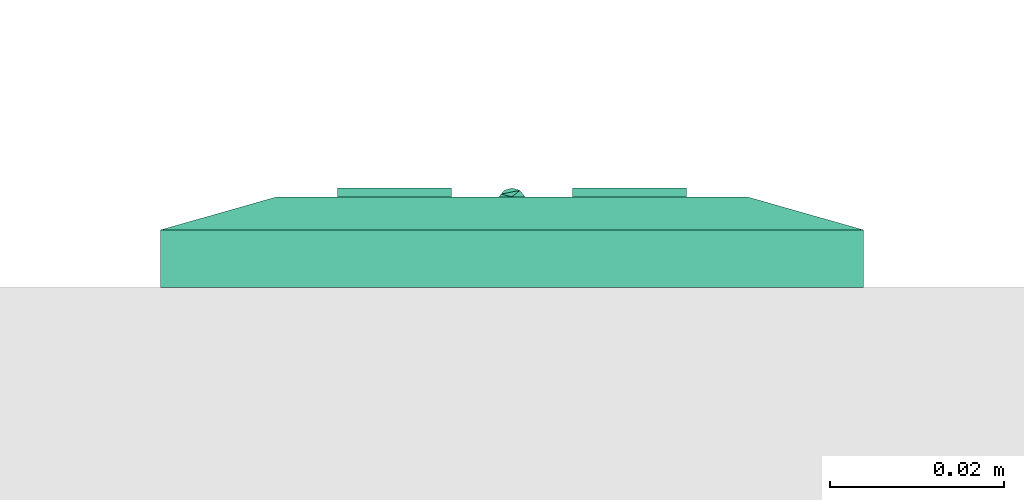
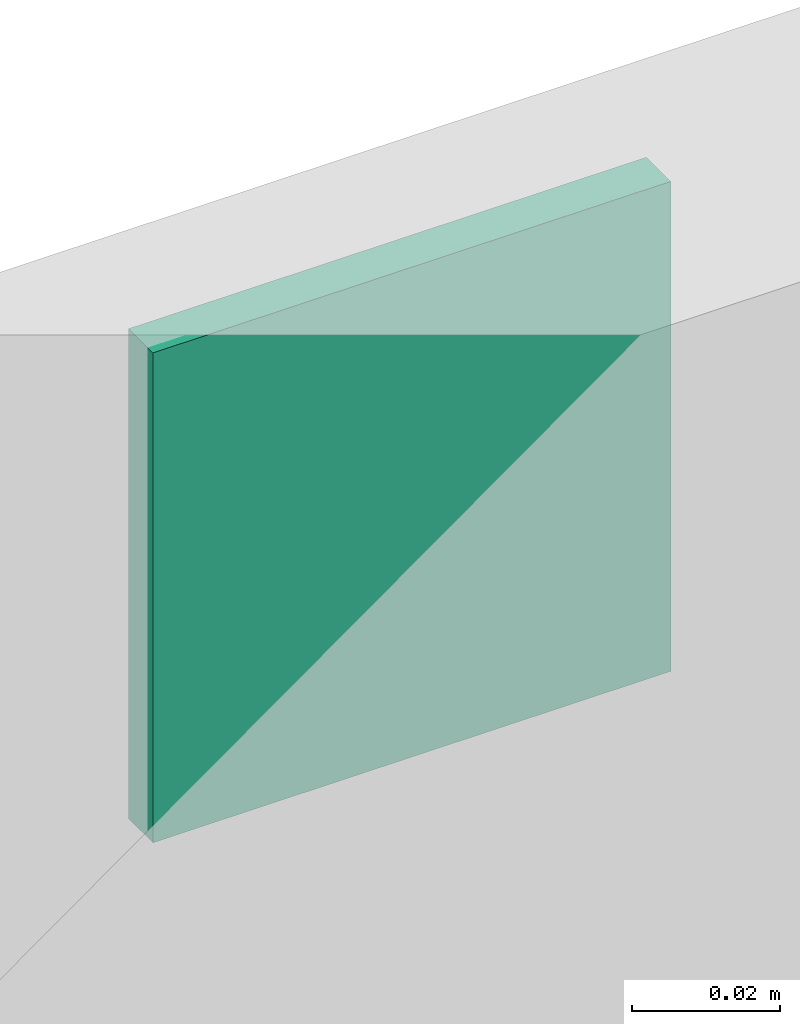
# One storey, part 8 of 9: 1 flow terminal.
"""IFC2X3 building model written with IfcOpenShell, lengths in metres."""

from ifc_helpers import new_model, entity, si_unit, converted_unit, derived_unit, direction, frame, origin, place, context, subcontext, project, spatial, face_set, surface_model, source, transform, mapped, type_object, type_shapes, element, save


model = new_model("IFC2X3")

# Units and contexts
model_context = context("Model", 3, precision=1e-05, world=origin(), true_north=direction((6.12303176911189e-17, 1.0)))
body_context = subcontext(model_context, "Body", "Model", "MODEL_VIEW")
ifc_project = project(units=[si_unit("LENGTHUNIT", "METRE"), si_unit("AREAUNIT", "SQUARE_METRE"), si_unit("VOLUMEUNIT", "CUBIC_METRE"), converted_unit("PLANEANGLEUNIT", "DEGREE", entity("IfcRatioMeasure", 0.0174532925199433), si_unit("PLANEANGLEUNIT", "RADIAN"), dimensions=[0, 0, 0, 0, 0, 0, 0]), si_unit("MASSUNIT", "GRAM", prefix="KILO"), derived_unit("MASSDENSITYUNIT", [(si_unit("MASSUNIT", "GRAM", prefix="KILO"), 1), (si_unit("LENGTHUNIT", "METRE"), -3)]), si_unit("TIMEUNIT", "SECOND"), si_unit("FREQUENCYUNIT", "HERTZ"), si_unit("THERMODYNAMICTEMPERATUREUNIT", "DEGREE_CELSIUS"), derived_unit("THERMALTRANSMITTANCEUNIT", [(si_unit("MASSUNIT", "GRAM", prefix="KILO"), 1), (si_unit("THERMODYNAMICTEMPERATUREUNIT", "KELVIN"), -1), (si_unit("TIMEUNIT", "SECOND"), -3)]), derived_unit("VOLUMETRICFLOWRATEUNIT", [(si_unit("LENGTHUNIT", "METRE"), 3), (si_unit("TIMEUNIT", "SECOND"), -1)]), si_unit("ELECTRICCURRENTUNIT", "AMPERE"), si_unit("ELECTRICVOLTAGEUNIT", "VOLT"), si_unit("POWERUNIT", "WATT"), si_unit("FORCEUNIT", "NEWTON"), si_unit("ILLUMINANCEUNIT", "LUX"), si_unit("LUMINOUSFLUXUNIT", "LUMEN"), si_unit("LUMINOUSINTENSITYUNIT", "CANDELA"), derived_unit("USERDEFINED", [(si_unit("MASSUNIT", "GRAM", prefix="KILO"), -1), (si_unit("LENGTHUNIT", "METRE"), -2), (si_unit("TIMEUNIT", "SECOND"), 3), (si_unit("LUMINOUSFLUXUNIT", "LUMEN"), 1)]), derived_unit("LINEARVELOCITYUNIT", [(si_unit("LENGTHUNIT", "METRE"), 1), (si_unit("TIMEUNIT", "SECOND"), -1)]), si_unit("PRESSUREUNIT", "PASCAL"), derived_unit("USERDEFINED", [(si_unit("LENGTHUNIT", "METRE"), -2), (si_unit("MASSUNIT", "GRAM", prefix="KILO"), 1), (si_unit("TIMEUNIT", "SECOND"), -2)])], contexts=[model_context])

# Site, building, storey
site_placement = place(None, origin())
site = spatial("IfcSite", under=ifc_project, at=site_placement, Name="Default", CompositionType="ELEMENT")
building_placement = place(site_placement, origin())
building = spatial("IfcBuilding", under=site, at=building_placement, CompositionType="ELEMENT")
storey_placement = place(building_placement, frame((0.0, 0.0, -0.0599999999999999)))
storey = spatial("IfcBuildingStorey", under=building, at=storey_placement, Name="S01", CompositionType="ELEMENT", Elevation=-0.0599999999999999)

# Flow terminal
electric_appliance_type = type_object("IfcElectricApplianceType", Name="Prise vidéo IP20", PredefinedType="NOTDEFINED")
shared_shape = source(origin(), body_context, "Body", "SurfaceModel", [
    surface_model("IfcFaceBasedSurfaceModel", [(0.0, 0.0, 0.010399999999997), (-0.00149999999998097, 0.0, 0.0103999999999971), (0.0, 0.0014999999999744, 0.0103999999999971), (0.00150000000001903, 0.0, 0.010399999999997), (0.0, -0.0015000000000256, 0.010399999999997), (-0.00090957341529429, 0.0, 0.0111393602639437), (0.00090957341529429, 0.0, 0.0111393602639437), (0.0, 0.000588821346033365, 0.0113031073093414), (0.0, 0.0, 0.0114000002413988), (-0.00125418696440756, 0.0, 0.0107078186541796), (0.000378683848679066, 0.0, 0.0112914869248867), (-0.00695404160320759, 0.0, 0.010399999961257), (-0.007177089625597, 0.00169421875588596, 0.010399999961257), (-0.007177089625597, 0.00169421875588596, 0.0114000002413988), (-0.00695404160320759, 0.0, 0.0114000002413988), (-0.00783103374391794, 0.00327297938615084, 0.010399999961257), (-0.00783103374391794, 0.00327297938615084, 0.0114000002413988), (-0.00887130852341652, 0.00462869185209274, 0.010399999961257), (-0.0102270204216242, 0.00566896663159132, 0.010399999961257), (-0.0102270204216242, 0.00566896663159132, 0.0114000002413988), (-0.00887130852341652, 0.00462869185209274, 0.0114000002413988), (-0.0118057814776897, 0.00632291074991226, 0.010399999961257), (-0.0118057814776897, 0.00632291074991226, 0.0114000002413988), (-0.0135000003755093, 0.00654595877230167, 0.0114000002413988), (-0.0135000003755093, 0.00654595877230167, 0.010399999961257), (-0.0151942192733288, 0.00632291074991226, 0.010399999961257), (-0.0151942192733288, 0.00632291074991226, 0.0114000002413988), (-0.0167729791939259, 0.00566896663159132, 0.010399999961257), (-0.0167729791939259, 0.00566896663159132, 0.0114000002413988), (-0.018128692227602, 0.00462869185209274, 0.010399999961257), (-0.0191689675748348, 0.00327297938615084, 0.010399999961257), (-0.0191689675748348, 0.00327297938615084, 0.0114000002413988), (-0.018128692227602, 0.00462869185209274, 0.0114000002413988), (-0.0198229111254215, 0.00169421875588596, 0.010399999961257), (-0.0198229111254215, 0.00169421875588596, 0.0114000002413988), (-0.0200459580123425, 0.0, 0.0114000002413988), (-0.0200459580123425, 0.0, 0.010399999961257), (-0.0198229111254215, -0.00169421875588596, 0.010399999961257), (-0.0198229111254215, -0.00169421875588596, 0.0114000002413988), (-0.0191689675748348, -0.00327297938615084, 0.010399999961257), (-0.0191689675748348, -0.00327297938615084, 0.0114000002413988), (-0.018128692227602, -0.00462869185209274, 0.010399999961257), (-0.0167729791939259, -0.00566896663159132, 0.010399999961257), (-0.0167729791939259, -0.00566896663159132, 0.0114000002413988), (-0.018128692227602, -0.00462869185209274, 0.0114000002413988), (-0.0151942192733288, -0.00632291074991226, 0.010399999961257), (-0.0151942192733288, -0.00632291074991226, 0.0114000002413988), (-0.0135000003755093, -0.00654595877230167, 0.0114000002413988), (-0.0135000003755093, -0.00654595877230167, 0.010399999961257), (-0.0118057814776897, -0.00632291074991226, 0.010399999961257), (-0.0118057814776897, -0.00632291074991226, 0.0114000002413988), (-0.0102270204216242, -0.00566896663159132, 0.010399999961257), (-0.0102270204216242, -0.00566896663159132, 0.0114000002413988), (-0.00887130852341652, -0.00462869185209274, 0.010399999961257), (-0.00783103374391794, -0.00327297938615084, 0.010399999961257), (-0.00783103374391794, -0.00327297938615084, 0.0114000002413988), (-0.00887130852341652, -0.00462869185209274, 0.0114000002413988), (-0.007177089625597, -0.00169421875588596, 0.010399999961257), (-0.007177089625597, -0.00169421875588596, 0.0114000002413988), (-0.00749999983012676, 0.0, 0.010399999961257), (-0.00749999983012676, 0.0, 0.0114000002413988), (-0.00770444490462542, -0.00155291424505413, 0.0114000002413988), (-0.00770444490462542, -0.00155291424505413, 0.010399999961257), (-0.00830384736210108, -0.00299999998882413, 0.0114000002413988), (-0.00830384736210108, -0.00299999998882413, 0.010399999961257), (-0.0092573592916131, -0.00424264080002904, 0.010399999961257), (-0.0092573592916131, -0.00424264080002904, 0.0114000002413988), (-0.0104999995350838, -0.00519615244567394, 0.0114000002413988), (-0.0104999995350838, -0.00519615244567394, 0.010399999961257), (-0.0119470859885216, -0.00579555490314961, 0.0114000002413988), (-0.0119470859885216, -0.00579555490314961, 0.010399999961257), (-0.0135000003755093, -0.00599999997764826, 0.0114000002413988), (-0.0135000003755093, -0.00599999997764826, 0.010399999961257), (-0.015052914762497, -0.00579555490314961, 0.0114000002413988), (-0.015052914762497, -0.00579555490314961, 0.010399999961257), (-0.0165000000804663, -0.00519615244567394, 0.0114000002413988), (-0.0165000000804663, -0.00519615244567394, 0.010399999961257), (-0.0177426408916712, -0.00424264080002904, 0.010399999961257), (-0.0177426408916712, -0.00424264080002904, 0.0114000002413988), (-0.0186961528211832, -0.00299999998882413, 0.0114000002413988), (-0.0186961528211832, -0.00299999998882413, 0.010399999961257), (-0.0192955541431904, -0.00155291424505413, 0.0114000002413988), (-0.0192955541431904, -0.00155291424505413, 0.010399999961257), (-0.0194999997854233, 0.0, 0.0114000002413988), (-0.0194999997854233, 0.0, 0.010399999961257), (-0.0192955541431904, 0.00155291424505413, 0.0114000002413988), (-0.0192955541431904, 0.00155291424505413, 0.010399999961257), (-0.0186961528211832, 0.00299999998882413, 0.0114000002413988), (-0.0186961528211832, 0.00299999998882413, 0.010399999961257), (-0.0177426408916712, 0.00424264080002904, 0.010399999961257), (-0.0177426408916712, 0.00424264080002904, 0.0114000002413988), (-0.0165000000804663, 0.00519615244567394, 0.0114000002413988), (-0.0165000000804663, 0.00519615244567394, 0.010399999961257), (-0.015052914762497, 0.00579555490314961, 0.0114000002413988), (-0.015052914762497, 0.00579555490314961, 0.010399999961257), (-0.0135000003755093, 0.00599999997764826, 0.0114000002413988), (-0.0135000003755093, 0.00599999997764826, 0.010399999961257), (-0.0119470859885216, 0.00579555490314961, 0.0114000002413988), (-0.0119470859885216, 0.00579555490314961, 0.010399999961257), (-0.0104999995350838, 0.00519615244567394, 0.0114000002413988), (-0.0104999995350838, 0.00519615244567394, 0.010399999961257), (-0.0092573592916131, 0.00424264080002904, 0.010399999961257), (-0.0092573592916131, 0.00424264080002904, 0.0114000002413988), (-0.00830384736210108, 0.00299999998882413, 0.0114000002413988), (-0.00830384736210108, 0.00299999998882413, 0.010399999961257), (-0.00770444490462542, 0.00155291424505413, 0.0114000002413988), (-0.00770444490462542, 0.00155291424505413, 0.010399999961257), (0.0200459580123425, 0.0, 0.0114000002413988), (0.0200459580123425, 0.0, 0.010399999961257), (0.0198229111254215, 0.00169421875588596, 0.010399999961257), (0.0198229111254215, 0.00169421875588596, 0.0114000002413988), (0.0191689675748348, 0.00327297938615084, 0.010399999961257), (0.0191689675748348, 0.00327297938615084, 0.0114000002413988), (0.018128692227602, 0.00462869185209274, 0.0114000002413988), (0.018128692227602, 0.00462869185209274, 0.010399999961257), (0.0167729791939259, 0.00566896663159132, 0.010399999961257), (0.0167729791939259, 0.00566896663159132, 0.0114000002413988), (0.0151942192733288, 0.00632291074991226, 0.010399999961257), (0.0151942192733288, 0.00632291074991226, 0.0114000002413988), (0.0135000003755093, 0.00654595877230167, 0.010399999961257), (0.0135000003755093, 0.00654595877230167, 0.0114000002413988), (0.0118057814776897, 0.00632291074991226, 0.0114000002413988), (0.0118057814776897, 0.00632291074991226, 0.010399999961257), (0.0102270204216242, 0.00566896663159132, 0.010399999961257), (0.0102270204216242, 0.00566896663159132, 0.0114000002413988), (0.00887130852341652, 0.00462869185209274, 0.010399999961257), (0.00887130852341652, 0.00462869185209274, 0.0114000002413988), (0.00783103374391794, 0.00327297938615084, 0.0114000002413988), (0.00783103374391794, 0.00327297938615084, 0.010399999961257), (0.007177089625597, 0.00169421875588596, 0.010399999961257), (0.007177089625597, 0.00169421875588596, 0.0114000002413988), (0.00695404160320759, 0.0, 0.010399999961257), (0.00695404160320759, 0.0, 0.0114000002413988), (0.007177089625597, -0.00169421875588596, 0.010399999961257), (0.007177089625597, -0.00169421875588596, 0.0114000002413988), (0.00783103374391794, -0.00327297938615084, 0.010399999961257), (0.00783103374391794, -0.00327297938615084, 0.0114000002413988), (0.00887130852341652, -0.00462869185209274, 0.0114000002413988), (0.00887130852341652, -0.00462869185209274, 0.010399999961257), (0.0102270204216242, -0.00566896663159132, 0.010399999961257), (0.0102270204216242, -0.00566896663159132, 0.0114000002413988), (0.0118057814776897, -0.00632291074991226, 0.010399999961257), (0.0118057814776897, -0.00632291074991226, 0.0114000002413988), (0.0135000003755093, -0.00654595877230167, 0.010399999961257), (0.0135000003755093, -0.00654595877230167, 0.0114000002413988), (0.0151942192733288, -0.00632291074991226, 0.0114000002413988), (0.0151942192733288, -0.00632291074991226, 0.010399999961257), (0.0167729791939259, -0.00566896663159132, 0.010399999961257), (0.0167729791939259, -0.00566896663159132, 0.0114000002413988), (0.018128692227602, -0.00462869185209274, 0.010399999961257), (0.018128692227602, -0.00462869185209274, 0.0114000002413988), (0.0191689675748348, -0.00327297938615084, 0.0114000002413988), (0.0191689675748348, -0.00327297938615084, 0.010399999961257), (0.0198229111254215, -0.00169421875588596, 0.010399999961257), (0.0198229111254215, -0.00169421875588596, 0.0114000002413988), (0.0194999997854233, 0.0, 0.010399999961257), (0.0194999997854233, 0.0, 0.0114000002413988), (0.0192955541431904, -0.00155291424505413, 0.0114000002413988), (0.0192955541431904, -0.00155291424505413, 0.010399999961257), (0.0186961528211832, -0.00299999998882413, 0.0114000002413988), (0.0186961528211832, -0.00299999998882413, 0.010399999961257), (0.0177426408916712, -0.00424264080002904, 0.010399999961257), (0.0177426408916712, -0.00424264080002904, 0.0114000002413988), (0.0165000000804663, -0.00519615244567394, 0.0114000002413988), (0.0165000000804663, -0.00519615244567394, 0.010399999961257), (0.015052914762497, -0.00579555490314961, 0.0114000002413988), (0.015052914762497, -0.00579555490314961, 0.010399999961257), (0.0135000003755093, -0.00599999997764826, 0.0114000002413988), (0.0135000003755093, -0.00599999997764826, 0.010399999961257), (0.0119470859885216, -0.00579555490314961, 0.0114000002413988), (0.0119470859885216, -0.00579555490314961, 0.010399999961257), (0.0104999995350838, -0.00519615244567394, 0.0114000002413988), (0.0104999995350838, -0.00519615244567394, 0.010399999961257), (0.0092573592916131, -0.00424264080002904, 0.010399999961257), (0.0092573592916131, -0.00424264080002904, 0.0114000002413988), (0.00830384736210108, -0.00299999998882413, 0.0114000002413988), (0.00830384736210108, -0.00299999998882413, 0.010399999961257), (0.00770444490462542, -0.00155291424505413, 0.0114000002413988), (0.00770444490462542, -0.00155291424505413, 0.010399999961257), (0.00749999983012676, 0.0, 0.0114000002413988), (0.00749999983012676, 0.0, 0.010399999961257), (0.00770444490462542, 0.00155291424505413, 0.0114000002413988), (0.00770444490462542, 0.00155291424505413, 0.010399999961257), (0.00830384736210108, 0.00299999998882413, 0.0114000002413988), (0.00830384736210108, 0.00299999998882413, 0.010399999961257), (0.0092573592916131, 0.00424264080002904, 0.010399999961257), (0.0092573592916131, 0.00424264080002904, 0.0114000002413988), (0.0104999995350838, 0.00519615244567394, 0.0114000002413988), (0.0104999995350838, 0.00519615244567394, 0.010399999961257), (0.0119470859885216, 0.00579555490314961, 0.0114000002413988), (0.0119470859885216, 0.00579555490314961, 0.010399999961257), (0.0135000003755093, 0.00599999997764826, 0.0114000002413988), (0.0135000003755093, 0.00599999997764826, 0.010399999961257), (0.015052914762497, 0.00579555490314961, 0.0114000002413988), (0.015052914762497, 0.00579555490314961, 0.010399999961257), (0.0165000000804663, 0.00519615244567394, 0.0114000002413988), (0.0165000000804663, 0.00519615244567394, 0.010399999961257), (0.0177426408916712, 0.00424264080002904, 0.010399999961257), (0.0177426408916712, 0.00424264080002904, 0.0114000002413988), (0.0186961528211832, 0.00299999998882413, 0.0114000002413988), (0.0186961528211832, 0.00299999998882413, 0.010399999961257), (0.0192955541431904, 0.00155291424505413, 0.0114000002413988), (0.0192955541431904, 0.00155291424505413, 0.010399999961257), (0.0146999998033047, 0.0, 0.0114000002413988), (0.0146999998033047, 0.0, 0.010399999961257), (0.0146591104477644, 0.000310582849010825, 0.010399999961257), (0.0146591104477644, 0.000310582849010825, 0.0114000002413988), (0.0145392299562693, 0.000599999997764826, 0.010399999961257), (0.0145392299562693, 0.000599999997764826, 0.0114000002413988), (0.0143485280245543, 0.000848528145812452, 0.0114000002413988), (0.0143485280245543, 0.000848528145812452, 0.010399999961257), (0.014100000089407, 0.00103923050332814, 0.010399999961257), (0.014100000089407, 0.00103923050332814, 0.0114000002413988), (0.0138105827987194, 0.00115911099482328, 0.010399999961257), (0.0138105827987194, 0.00115911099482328, 0.0114000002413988), (0.0135000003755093, 0.00119999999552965, 0.010399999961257), (0.0135000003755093, 0.00119999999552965, 0.0114000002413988), (0.0131894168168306, 0.00115911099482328, 0.0114000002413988), (0.0131894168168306, 0.00115911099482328, 0.010399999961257), (0.0128999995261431, 0.00103923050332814, 0.010399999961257), (0.0128999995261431, 0.00103923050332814, 0.0114000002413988), (0.0126514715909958, 0.000848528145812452, 0.010399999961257), (0.0126514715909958, 0.000848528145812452, 0.0114000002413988), (0.0124607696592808, 0.000599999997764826, 0.0114000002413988), (0.0124607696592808, 0.000599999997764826, 0.010399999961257), (0.0123408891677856, 0.000310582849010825, 0.010399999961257), (0.0123408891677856, 0.000310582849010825, 0.0114000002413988), (0.0122999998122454, 0.0, 0.010399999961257), (0.0122999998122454, 0.0, 0.0114000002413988), (0.0123408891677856, -0.000310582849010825, 0.010399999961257), (0.0123408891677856, -0.000310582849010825, 0.0114000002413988), (0.0124607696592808, -0.000599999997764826, 0.010399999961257), (0.0124607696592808, -0.000599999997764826, 0.0114000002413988), (0.0126514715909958, -0.000848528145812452, 0.0114000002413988), (0.0126514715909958, -0.000848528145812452, 0.010399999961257), (0.0128999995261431, -0.00103923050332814, 0.010399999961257), (0.0128999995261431, -0.00103923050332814, 0.0114000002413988), (0.0131894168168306, -0.00115911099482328, 0.010399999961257), (0.0131894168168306, -0.00115911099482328, 0.0114000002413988), (0.0135000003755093, -0.00119999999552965, 0.010399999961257), (0.0135000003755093, -0.00119999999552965, 0.0114000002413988), (0.0138105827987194, -0.00115911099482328, 0.0114000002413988), (0.0138105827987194, -0.00115911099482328, 0.010399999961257), (0.014100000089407, -0.00103923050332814, 0.010399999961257), (0.014100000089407, -0.00103923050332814, 0.0114000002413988), (0.0143485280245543, -0.000848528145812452, 0.010399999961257), (0.0143485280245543, -0.000848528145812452, 0.0114000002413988), (0.0145392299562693, -0.000599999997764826, 0.0114000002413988), (0.0145392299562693, -0.000599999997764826, 0.010399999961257), (0.0146591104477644, -0.000310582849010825, 0.010399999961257), (0.0146591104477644, -0.000310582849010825, 0.0114000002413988), (0.0143945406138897, 0.0, 0.010399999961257), (0.0143945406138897, 0.0, 0.0114000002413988), (0.0143640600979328, -0.000231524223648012, 0.0114000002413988), (0.0143640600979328, -0.000231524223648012, 0.010399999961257), (0.0142746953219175, -0.000447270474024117, 0.0114000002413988), (0.0142746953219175, -0.000447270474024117, 0.010399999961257), (0.014132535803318, -0.000632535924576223, 0.010399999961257), (0.014132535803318, -0.000632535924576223, 0.0114000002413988), (0.0139472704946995, -0.000774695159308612, 0.0114000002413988), (0.0139472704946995, -0.000774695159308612, 0.010399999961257), (0.0137315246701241, -0.000864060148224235, 0.0114000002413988), (0.0137315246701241, -0.000864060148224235, 0.010399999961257), (0.0135000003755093, -0.000894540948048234, 0.0114000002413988), (0.0135000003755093, -0.000894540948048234, 0.010399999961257), (0.0132684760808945, -0.000864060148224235, 0.0114000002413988), (0.0132684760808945, -0.000864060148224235, 0.010399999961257), (0.0130527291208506, -0.000774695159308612, 0.0114000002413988), (0.0130527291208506, -0.000774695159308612, 0.010399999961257), (0.012867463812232, -0.000632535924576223, 0.010399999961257), (0.012867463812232, -0.000632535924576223, 0.0114000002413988), (0.0127253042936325, -0.000447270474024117, 0.0114000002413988), (0.0127253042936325, -0.000447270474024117, 0.010399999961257), (0.0126359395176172, -0.000231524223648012, 0.0114000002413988), (0.0126359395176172, -0.000231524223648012, 0.010399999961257), (0.0126054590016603, 0.0, 0.0114000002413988), (0.0126054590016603, 0.0, 0.010399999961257), (0.0126359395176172, 0.000231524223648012, 0.0114000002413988), (0.0126359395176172, 0.000231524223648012, 0.010399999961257), (0.0127253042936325, 0.000447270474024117, 0.0114000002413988), (0.0127253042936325, 0.000447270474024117, 0.010399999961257), (0.012867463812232, 0.000632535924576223, 0.010399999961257), (0.012867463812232, 0.000632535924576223, 0.0114000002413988), (0.0130527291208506, 0.000774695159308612, 0.0114000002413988), (0.0130527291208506, 0.000774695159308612, 0.010399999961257), (0.0132684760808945, 0.000864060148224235, 0.0114000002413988), (0.0132684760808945, 0.000864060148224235, 0.010399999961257), (0.0135000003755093, 0.000894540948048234, 0.0114000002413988), (0.0135000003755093, 0.000894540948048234, 0.010399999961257), (0.0137315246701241, 0.000864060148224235, 0.0114000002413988), (0.0137315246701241, 0.000864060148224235, 0.010399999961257), (0.0139472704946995, 0.000774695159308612, 0.0114000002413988), (0.0139472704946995, 0.000774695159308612, 0.010399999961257), (0.014132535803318, 0.000632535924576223, 0.010399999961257), (0.014132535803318, 0.000632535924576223, 0.0114000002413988), (0.0142746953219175, 0.000447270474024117, 0.0114000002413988), (0.0142746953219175, 0.000447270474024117, 0.010399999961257), (0.0143640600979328, 0.000231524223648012, 0.0114000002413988), (0.0143640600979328, 0.000231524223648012, 0.010399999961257), (0.0146591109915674, 0.000310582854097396, 0.0113999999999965), (0.0126054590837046, 0.0, 0.0113999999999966), (0.0128674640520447, -0.000632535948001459, 0.0113999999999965), (0.0146591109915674, 0.000310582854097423, 0.0103999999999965), (0.0126054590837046, 0.0, 0.0103999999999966), (0.0128674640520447, -0.000632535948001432, 0.0103999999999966), (0.027000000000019, 0.0269999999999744, 0.0103999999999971), (0.027000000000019, -0.0270000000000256, 0.0103999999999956), (-0.026999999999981, -0.0270000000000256, 0.0103999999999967), (-0.026999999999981, 0.0269999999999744, 0.0103999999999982), (-0.0074999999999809, -0.0170000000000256, 0.0103999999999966), (-0.0074999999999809, -0.0220000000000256, 0.0103999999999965), (0.0075000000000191, -0.0220000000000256, 0.0103999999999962), (0.0075000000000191, -0.0170000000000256, 0.0103999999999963), (0.0270000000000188, 0.0269999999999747, 0.0), (0.0270000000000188, -0.0270000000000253, 0.0), (-0.0269999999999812, -0.0270000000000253, 0.0), (-0.0269999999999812, 0.0269999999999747, 0.0), (0.00750000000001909, -0.0170000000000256, 0.00989999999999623), (0.00750000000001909, -0.0220000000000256, 0.00989999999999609), (-0.00749999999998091, -0.0220000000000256, 0.0098999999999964), (-0.00749999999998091, -0.0170000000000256, 0.00989999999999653), (0.040350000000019, 0.0403499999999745, 0.00659999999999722), (0.040350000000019, -0.0403500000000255, 0.00659999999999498), (-0.0403499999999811, -0.0403500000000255, 0.00659999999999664), (-0.0403499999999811, 0.0403499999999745, 0.00659999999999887), (0.027000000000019, 0.0269999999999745, 0.00659999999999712), (-0.0269999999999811, 0.0269999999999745, 0.00659999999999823), (-0.026999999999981, -0.0270000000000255, 0.00659999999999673), (0.027000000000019, -0.0270000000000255, 0.00659999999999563), (0.027000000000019, 0.0269999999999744, 0.0103999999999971), (-0.026999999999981, 0.0269999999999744, 0.0103999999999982), (-0.026999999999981, -0.0270000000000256, 0.0103999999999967), (0.027000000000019, -0.0270000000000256, 0.0103999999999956), (0.040350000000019, 0.0403499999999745, 0.00659999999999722), (0.040350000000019, -0.0403500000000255, 0.00659999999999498), (-0.0403499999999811, -0.0403500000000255, 0.00659999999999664), (-0.0403499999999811, 0.0403499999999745, 0.00659999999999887), (-0.0269999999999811, 0.0269999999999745, 0.00659999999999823), (-0.0269999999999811, -0.0270000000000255, 0.00659999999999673), (0.0270000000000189, -0.0270000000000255, 0.00659999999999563), (0.0270000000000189, 0.0269999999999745, 0.00659999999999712), (0.0403500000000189, 0.0403499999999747, 0.0), (0.0403500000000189, -0.0403500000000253, 0.0), (-0.0403499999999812, -0.0403500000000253, 0.0), (-0.0403499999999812, 0.0403499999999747, 0.0), (0.0270000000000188, 0.0269999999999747, 0.0), (-0.0269999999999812, 0.0269999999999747, 0.0), (-0.0269999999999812, -0.0270000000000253, 0.0), (0.0270000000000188, -0.0270000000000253, 0.0)], [face_set([[[0, 1, 2, 3]], [[0, 3, 4, 1]], [[1, 5, 2]], [[6, 2, 5]], [[7, 8, 6]], [[6, 3, 2]], [[7, 5, 6]], [[8, 7, 5]], [[6, 4, 3]], [[1, 4, 9]], [[6, 9, 4]], [[5, 9, 6, 10]], [[10, 8, 5]]]), face_set([[[11, 12, 13, 14]], [[12, 15, 16, 13]], [[17, 18, 19, 20]], [[15, 17, 20, 16]], [[18, 21, 22, 19]], [[23, 22, 21, 24]], [[24, 25, 26, 23]], [[25, 27, 28, 26]], [[29, 30, 31, 32]], [[27, 29, 32, 28]], [[30, 33, 34, 31]], [[35, 34, 33, 36]], [[36, 37, 38, 35]], [[37, 39, 40, 38]], [[41, 42, 43, 44]], [[39, 41, 44, 40]], [[42, 45, 46, 43]], [[47, 46, 45, 48]], [[48, 49, 50, 47]], [[49, 51, 52, 50]], [[53, 54, 55, 56]], [[51, 53, 56, 52]], [[54, 57, 58, 55]], [[14, 58, 57, 11]], [[59, 60, 61, 62]], [[62, 61, 63, 64]], [[65, 66, 67, 68]], [[64, 63, 66, 65]], [[68, 67, 69, 70]], [[71, 72, 70, 69]], [[72, 71, 73, 74]], [[74, 73, 75, 76]], [[77, 78, 79, 80]], [[76, 75, 78, 77]], [[80, 79, 81, 82]], [[83, 84, 82, 81]], [[84, 83, 85, 86]], [[86, 85, 87, 88]], [[89, 90, 91, 92]], [[88, 87, 90, 89]], [[92, 91, 93, 94]], [[95, 96, 94, 93]], [[96, 95, 97, 98]], [[98, 97, 99, 100]], [[101, 102, 103, 104]], [[100, 99, 102, 101]], [[104, 103, 105, 106]], [[60, 59, 106, 105]], [[35, 34, 31, 32, 28, 26, 23, 22, 19, 20, 16, 13, 14, 58, 55, 56, 52, 50, 47, 46, 43, 44, 40, 38], [83, 81, 79, 78, 75, 73, 71, 69, 67, 66, 63, 61, 60, 105, 103, 102, 99, 97, 95, 93, 91, 90, 87, 85]], [[36, 33, 30, 29, 27, 25, 24, 21, 18, 17, 15, 12, 11, 57, 54, 53, 51, 49, 48, 45, 42, 41, 39, 37], [84, 82, 80, 77, 76, 74, 72, 70, 68, 65, 64, 62, 59, 106, 104, 101, 100, 98, 96, 94, 92, 89, 88, 86]]]), face_set([[[107, 108, 109, 110]], [[110, 109, 111, 112]], [[113, 114, 115, 116]], [[112, 111, 114, 113]], [[116, 115, 117, 118]], [[119, 120, 118, 117]], [[121, 122, 123, 124]], [[124, 123, 125, 126]], [[127, 128, 129, 130]], [[126, 125, 128, 127]], [[130, 129, 131, 132]], [[122, 121, 120, 119]], [[132, 131, 133, 134]], [[134, 133, 135, 136]], [[137, 138, 139, 140]], [[136, 135, 138, 137]], [[140, 139, 141, 142]], [[143, 144, 142, 141]], [[145, 146, 147, 148]], [[148, 147, 149, 150]], [[151, 152, 153, 154]], [[150, 149, 152, 151]], [[154, 153, 108, 107]], [[146, 145, 144, 143]], [[155, 156, 157, 158]], [[158, 157, 159, 160]], [[161, 162, 163, 164]], [[160, 159, 162, 161]], [[164, 163, 165, 166]], [[167, 168, 166, 165]], [[168, 167, 169, 170]], [[170, 169, 171, 172]], [[173, 174, 175, 176]], [[172, 171, 174, 173]], [[176, 175, 177, 178]], [[179, 180, 178, 177]], [[180, 179, 181, 182]], [[182, 181, 183, 184]], [[185, 186, 187, 188]], [[184, 183, 186, 185]], [[188, 187, 189, 190]], [[191, 192, 190, 189]], [[192, 191, 193, 194]], [[194, 193, 195, 196]], [[197, 198, 199, 200]], [[196, 195, 198, 197]], [[200, 199, 201, 202]], [[156, 155, 202, 201]], [[132, 130, 127, 126, 124, 121, 120, 118, 116, 113, 112, 110, 107, 154, 151, 150, 148, 145, 144, 142, 140, 137, 136, 134], [179, 177, 175, 174, 171, 169, 167, 165, 163, 162, 159, 157, 156, 201, 199, 198, 195, 193, 191, 189, 187, 186, 183, 181]], [[131, 129, 128, 125, 123, 122, 119, 117, 115, 114, 111, 109, 108, 153, 152, 149, 147, 146, 143, 141, 139, 138, 135, 133], [180, 178, 176, 173, 172, 170, 168, 166, 164, 161, 160, 158, 155, 202, 200, 197, 196, 194, 192, 190, 188, 185, 184, 182]]]), face_set([[[203, 204, 205, 206]], [[206, 205, 207, 208]], [[209, 210, 211, 212]], [[208, 207, 210, 209]], [[212, 211, 213, 214]], [[215, 216, 214, 213]], [[217, 218, 219, 220]], [[220, 219, 221, 222]], [[223, 224, 225, 226]], [[222, 221, 224, 223]], [[226, 225, 227, 228]], [[218, 217, 216, 215]], [[228, 227, 229, 230]], [[230, 229, 231, 232]], [[233, 234, 235, 236]], [[232, 231, 234, 233]], [[236, 235, 237, 238]], [[239, 240, 238, 237]], [[241, 242, 243, 244]], [[244, 243, 245, 246]], [[247, 248, 249, 250]], [[246, 245, 248, 247]], [[250, 249, 204, 203]], [[242, 241, 240, 239]], [[251, 252, 253, 254]], [[254, 253, 255, 256]], [[257, 258, 259, 260]], [[256, 255, 258, 257]], [[260, 259, 261, 262]], [[263, 264, 262, 261]], [[264, 263, 265, 266]], [[266, 265, 267, 268]], [[269, 270, 271, 272]], [[268, 267, 270, 269]], [[272, 271, 273, 274]], [[275, 276, 274, 273]], [[276, 275, 277, 278]], [[278, 277, 279, 280]], [[281, 282, 283, 284]], [[280, 279, 282, 281]], [[284, 283, 285, 286]], [[287, 288, 286, 285]], [[288, 287, 289, 290]], [[290, 289, 291, 292]], [[293, 294, 295, 296]], [[292, 291, 294, 293]], [[296, 295, 297, 298]], [[252, 251, 298, 297]], [[228, 226, 223, 222, 220, 217, 216, 214, 212, 209, 208, 299, 203, 250, 247, 246, 244, 241, 240, 238, 236, 233, 232, 230], [300, 273, 271, 301, 267, 265, 263, 261, 259, 258, 255, 253, 252, 297, 295, 294, 291, 289, 287, 285, 283, 282, 279, 277]], [[227, 225, 224, 221, 219, 218, 215, 213, 211, 210, 207, 302, 204, 249, 248, 245, 243, 242, 239, 237, 235, 234, 231, 229], [303, 274, 272, 304, 268, 266, 264, 262, 260, 257, 256, 254, 251, 298, 296, 293, 292, 290, 288, 286, 284, 281, 280, 278]]]), face_set([[[305, 306, 307, 308], [309, 310, 311, 312]], [[313, 314, 315, 316]], [[308, 305, 313, 316]], [[307, 308, 316, 315]], [[306, 307, 315, 314]], [[305, 306, 314, 313]], [[317, 318, 319, 320]], [[320, 317, 312, 309]], [[319, 310, 309, 320]], [[318, 311, 310, 319]], [[317, 312, 311, 318]]]), face_set([[[321, 322, 323, 324], [325, 326, 327, 328]], [[321, 329, 330, 324]], [[324, 330, 331, 323]], [[323, 331, 332, 322]], [[322, 332, 329, 321]], [[325, 326, 330, 329]], [[326, 327, 331, 330]], [[327, 328, 332, 331]], [[329, 332, 328, 325]]]), face_set([[[333, 334, 335, 336], [337, 338, 339, 340]], [[341, 342, 343, 344], [345, 346, 347, 348]], [[336, 333, 341, 344]], [[335, 336, 344, 343]], [[334, 335, 343, 342]], [[333, 334, 342, 341]], [[345, 346, 337, 340]], [[346, 347, 338, 337]], [[347, 348, 339, 338]], [[340, 339, 348, 345]]])]),
])
type_shapes(electric_appliance_type, [shared_shape])
flow_terminal_placement = place(storey_placement, frame((68.9615211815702, -193.177069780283, 0.371999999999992), z_axis=(0.0, 1.0, 0.0), x_axis=(1.0, 0.0, 0.0)))
element("IfcFlowTerminal", 1, at=flow_terminal_placement, inside=storey, type_object=electric_appliance_type, Name="INT_Prise Vidéo IP20/21:Prise vidéo IP20", ObjectType="INT_Prise Vidéo IP20/21:Prise vidéo IP20", context=body_context, shape_type="MappedRepresentation", body=[
    mapped(shared_shape, transform((0.0, 0.0, 0.0), scale=1.0)),
])

save(model, "model.ifc")
